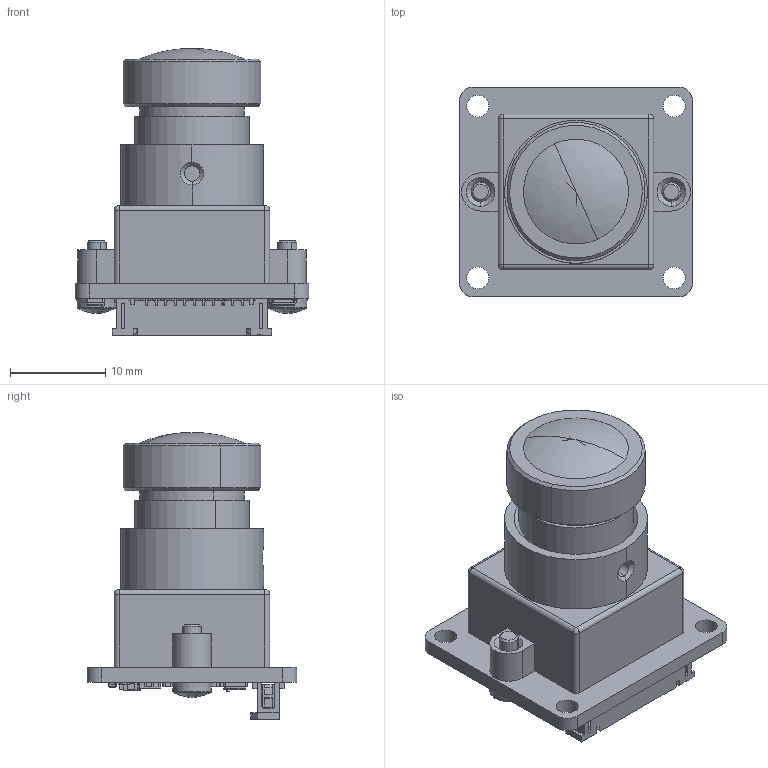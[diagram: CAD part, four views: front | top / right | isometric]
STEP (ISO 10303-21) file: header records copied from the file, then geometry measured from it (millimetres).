
FILE_DESCRIPTION((''),'2;1');
FILE_NAME('DS-CIMX327-22-28_LGHT','2025-03-13T',('admin'),(''),'CREO PARAMETRIC BY PTC INC, 2017300','CREO PARAMETRIC BY PTC INC, 2017300','');
FILE_SCHEMA(('AUTOMOTIVE_DESIGN { 1 0 10303 214 1 1 1 1 }'));
Length unit declared in the file: millimetre
Products named in the file (1): DS-CIMX327-22-28_LGHT
Bounding box: 24.5 x 22 x 30.07 mm (x, y, z)
Surface area: 3587.1 mm2 (no closed solid volume)
Topology: 0 solids, 266 shells, 843 faces, 3170 edges, 2566 vertices
Faces by surface type: plane 669, cylinder 100, bspline 38, cone 18, sphere 10, torus 8
Entity records: 40748 total; most frequent: CARTESIAN_POINT 9363, DIRECTION 5069, ORIENTED_EDGE 4101, EDGE_CURVE 3158, VECTOR 2641, LINE 2641, VERTEX_POINT 2566, AXIS2_PLACEMENT_3D 1214
